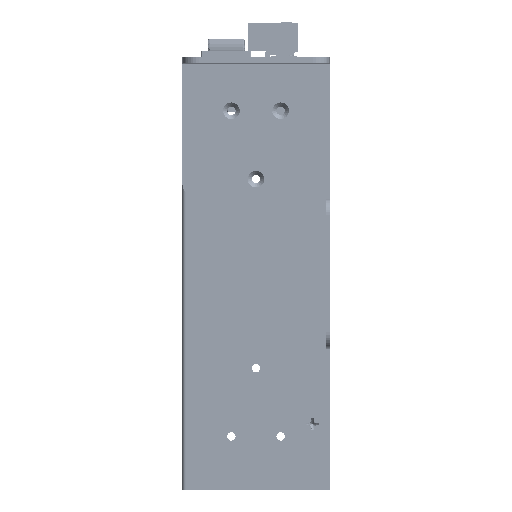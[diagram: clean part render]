
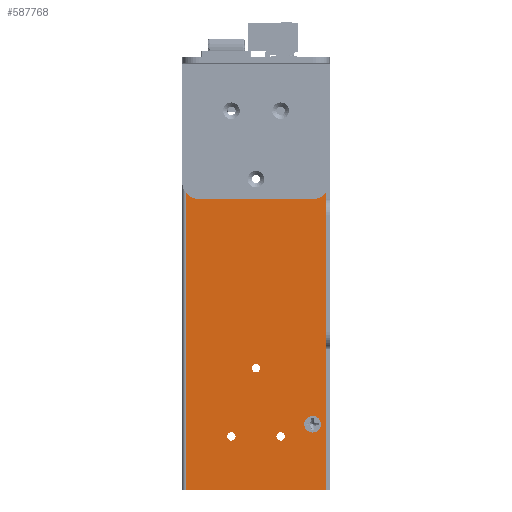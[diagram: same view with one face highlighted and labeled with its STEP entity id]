
A CAD part, left-side view. The second image highlights one B-rep face of the part: STEP entity #587768.
In plain terms, the highlighted planar face has unit normal (-1, 0, 0).
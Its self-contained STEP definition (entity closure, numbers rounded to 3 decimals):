
#11172=FACE_BOUND('',#65003,.T.);
#11173=FACE_BOUND('',#65004,.T.);
#11174=FACE_BOUND('',#65005,.T.);
#11175=FACE_BOUND('',#65006,.T.);
#11176=FACE_BOUND('',#65007,.T.);
#11177=FACE_BOUND('',#65008,.T.);
#11178=FACE_BOUND('',#65009,.T.);
#11179=FACE_BOUND('',#65010,.T.);
#14454=CIRCLE('',#612905,2.5);
#14455=CIRCLE('',#612906,2.5);
#16655=CIRCLE('',#623153,1.265);
#16656=CIRCLE('',#623154,1.265);
#16657=CIRCLE('',#623155,1.265);
#16658=CIRCLE('',#623156,1.265);
#16659=CIRCLE('',#623157,1.265);
#16660=CIRCLE('',#623158,1.265);
#16661=CIRCLE('',#623159,2.5);
#16662=CIRCLE('',#623160,2.5);
#34262=FACE_OUTER_BOUND('',#65002,.T.);
#65002=EDGE_LOOP('',(#460907,#460908,#460909,#460910));
#65003=EDGE_LOOP('',(#460911));
#65004=EDGE_LOOP('',(#460912));
#65005=EDGE_LOOP('',(#460913));
#65006=EDGE_LOOP('',(#460914));
#65007=EDGE_LOOP('',(#460915));
#65008=EDGE_LOOP('',(#460916));
#65009=EDGE_LOOP('',(#460917,#460918));
#65010=EDGE_LOOP('',(#460919,#460920));
#119009=LINE('',#899302,#194125);
#119010=LINE('',#899304,#194126);
#119011=LINE('',#899306,#194127);
#119012=LINE('',#899307,#194128);
#194125=VECTOR('',#719785,10.);
#194126=VECTOR('',#719786,10.);
#194127=VECTOR('',#719787,10.);
#194128=VECTOR('',#719788,0.365);
#247453=VERTEX_POINT('',#849785);
#247454=VERTEX_POINT('',#849786);
#247537=VERTEX_POINT('',#851058);
#247538=VERTEX_POINT('',#851059);
#261174=VERTEX_POINT('',#899300);
#261175=VERTEX_POINT('',#899301);
#261176=VERTEX_POINT('',#899303);
#261177=VERTEX_POINT('',#899305);
#261178=VERTEX_POINT('',#899308);
#261179=VERTEX_POINT('',#899310);
#261180=VERTEX_POINT('',#899312);
#261181=VERTEX_POINT('',#899314);
#261182=VERTEX_POINT('',#899316);
#261183=VERTEX_POINT('',#899318);
#310922=EDGE_CURVE('',#247453,#247454,#14454,.T.);
#310923=EDGE_CURVE('',#247454,#247453,#14455,.T.);
#333033=EDGE_CURVE('',#261174,#261175,#119009,.T.);
#333034=EDGE_CURVE('',#261175,#261176,#119010,.T.);
#333035=EDGE_CURVE('',#261176,#261177,#119011,.T.);
#333036=EDGE_CURVE('',#261177,#261174,#119012,.T.);
#333037=EDGE_CURVE('',#261178,#261178,#16655,.T.);
#333038=EDGE_CURVE('',#261179,#261179,#16656,.T.);
#333039=EDGE_CURVE('',#261180,#261180,#16657,.T.);
#333040=EDGE_CURVE('',#261181,#261181,#16658,.T.);
#333041=EDGE_CURVE('',#261182,#261182,#16659,.T.);
#333042=EDGE_CURVE('',#261183,#261183,#16660,.T.);
#333043=EDGE_CURVE('',#247537,#247538,#16661,.T.);
#333044=EDGE_CURVE('',#247538,#247537,#16662,.T.);
#460907=ORIENTED_EDGE('',*,*,#333033,.T.);
#460908=ORIENTED_EDGE('',*,*,#333034,.T.);
#460909=ORIENTED_EDGE('',*,*,#333035,.T.);
#460910=ORIENTED_EDGE('',*,*,#333036,.T.);
#460911=ORIENTED_EDGE('',*,*,#333037,.T.);
#460912=ORIENTED_EDGE('',*,*,#333038,.T.);
#460913=ORIENTED_EDGE('',*,*,#333039,.T.);
#460914=ORIENTED_EDGE('',*,*,#333040,.T.);
#460915=ORIENTED_EDGE('',*,*,#333041,.T.);
#460916=ORIENTED_EDGE('',*,*,#333042,.T.);
#460917=ORIENTED_EDGE('',*,*,#333043,.F.);
#460918=ORIENTED_EDGE('',*,*,#333044,.F.);
#460919=ORIENTED_EDGE('',*,*,#310922,.T.);
#460920=ORIENTED_EDGE('',*,*,#310923,.T.);
#560540=PLANE('',#623152);
#587768=ADVANCED_FACE('',(#34262,#11172,#11173,#11174,#11175,#11176,#11177,
#11178,#11179),#560540,.T.);
#612905=AXIS2_PLACEMENT_3D('',#849787,#680716,#680717);
#612906=AXIS2_PLACEMENT_3D('',#849788,#680718,#680719);
#623152=AXIS2_PLACEMENT_3D('',#899299,#719783,#719784);
#623153=AXIS2_PLACEMENT_3D('',#899309,#719789,#719790);
#623154=AXIS2_PLACEMENT_3D('',#899311,#719791,#719792);
#623155=AXIS2_PLACEMENT_3D('',#899313,#719793,#719794);
#623156=AXIS2_PLACEMENT_3D('',#899315,#719795,#719796);
#623157=AXIS2_PLACEMENT_3D('',#899317,#719797,#719798);
#623158=AXIS2_PLACEMENT_3D('',#899319,#719799,#719800);
#623159=AXIS2_PLACEMENT_3D('',#899320,#719801,#719802);
#623160=AXIS2_PLACEMENT_3D('',#899321,#719803,#719804);
#680716=DIRECTION('center_axis',(1.,0.,0.));
#680717=DIRECTION('ref_axis',(0.,1.,0.));
#680718=DIRECTION('center_axis',(1.,0.,0.));
#680719=DIRECTION('ref_axis',(0.,1.,0.));
#719783=DIRECTION('center_axis',(-1.,0.,0.));
#719784=DIRECTION('ref_axis',(0.,0.,
1.));
#719785=DIRECTION('',(0.,0.,1.));
#719786=DIRECTION('',(0.,1.,0.));
#719787=DIRECTION('',(0.,0.,-1.));
#719788=DIRECTION('',(0.,-1.,0.));
#719789=DIRECTION('center_axis',(1.,0.,0.));
#719790=DIRECTION('ref_axis',(0.,1.,0.));
#719791=DIRECTION('center_axis',(1.,0.,0.));
#719792=DIRECTION('ref_axis',(0.,1.,0.));
#719793=DIRECTION('center_axis',(1.,0.,0.));
#719794=DIRECTION('ref_axis',(0.,1.,0.));
#719795=DIRECTION('center_axis',(1.,0.,0.));
#719796=DIRECTION('ref_axis',(0.,1.,0.));
#719797=DIRECTION('center_axis',(1.,0.,0.));
#719798=DIRECTION('ref_axis',(0.,1.,0.));
#719799=DIRECTION('center_axis',(1.,0.,0.));
#719800=DIRECTION('ref_axis',(0.,1.,0.));
#719801=DIRECTION('center_axis',(-1.,0.,0.));
#719802=DIRECTION('ref_axis',(0.,0.,
1.));
#719803=DIRECTION('center_axis',(-1.,0.,0.));
#719804=DIRECTION('ref_axis',(0.,0.,
1.));
#849785=CARTESIAN_POINT('',(-6.,-4.02,-109.71));
#849786=CARTESIAN_POINT('',(-6.,-6.52,-107.21));
#849787=CARTESIAN_POINT('Origin',(-6.,-4.02,-107.21));
#849788=CARTESIAN_POINT('Origin',(-6.,-4.02,-107.21));
#851058=CARTESIAN_POINT('',(-6.,-6.52,-16.71));
#851059=CARTESIAN_POINT('',(-6.,-4.02,-19.21));
#899299=CARTESIAN_POINT('Origin',(-6.,12.757,-61.96));
#899300=CARTESIAN_POINT('',(-6.,-8.16,-126.96));
#899301=CARTESIAN_POINT('',(-6.,-8.16,3.04));
#899302=CARTESIAN_POINT('',(-6.,-8.16,-94.46));
#899303=CARTESIAN_POINT('',(-6.,34.11,3.04));
#899304=CARTESIAN_POINT('',(-6.,34.11,3.04));
#899305=CARTESIAN_POINT('',(-6.,34.11,-126.96));
#899306=CARTESIAN_POINT('',(-6.,34.11,-61.96));
#899307=CARTESIAN_POINT('',(-6.,35.257,-126.96));
#899308=CARTESIAN_POINT('',(-6.,19.106,-13.06));
#899309=CARTESIAN_POINT('Origin',(-6.,20.37,-13.06));
#899310=CARTESIAN_POINT('',(-6.,11.711,-33.56));
#899311=CARTESIAN_POINT('Origin',(-6.,12.975,-33.56));
#899312=CARTESIAN_POINT('',(-6.,4.316,-13.06));
#899313=CARTESIAN_POINT('Origin',(-6.,5.58,-13.06));
#899314=CARTESIAN_POINT('',(-6.,19.106,-110.86));
#899315=CARTESIAN_POINT('Origin',(-6.,20.37,-110.86));
#899316=CARTESIAN_POINT('',(-6.,11.711,-90.36));
#899317=CARTESIAN_POINT('Origin',(-6.,12.975,-90.36));
#899318=CARTESIAN_POINT('',(-6.,4.316,-110.86));
#899319=CARTESIAN_POINT('Origin',(-6.,5.58,-110.86));
#899320=CARTESIAN_POINT('Origin',(-6.,-4.02,-16.71));
#899321=CARTESIAN_POINT('Origin',(-6.,-4.02,-16.71));
